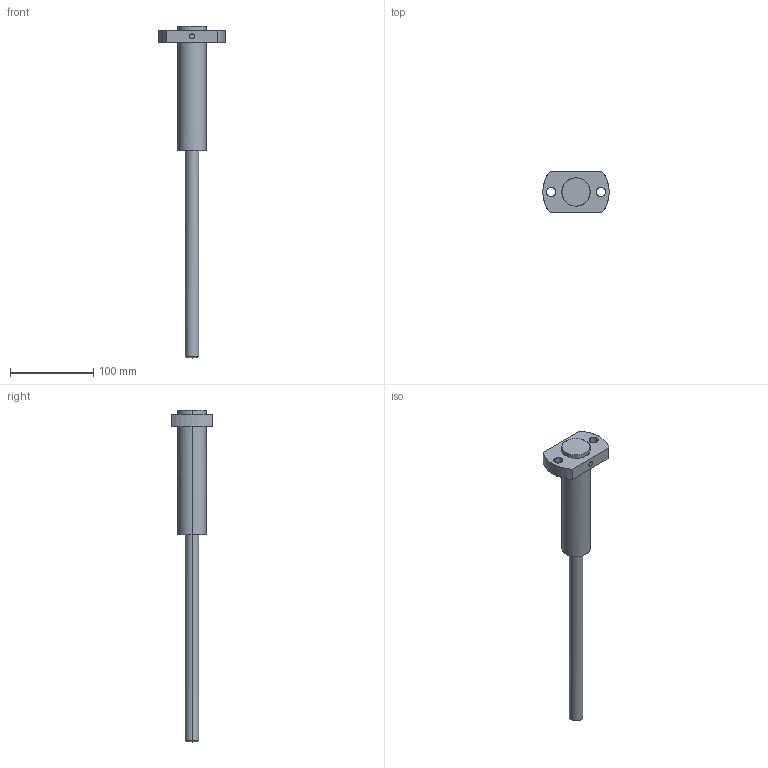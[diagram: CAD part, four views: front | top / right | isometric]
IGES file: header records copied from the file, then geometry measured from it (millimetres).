
Global section: file name: E:\UnigraphicsGraphicData\MISUMI_PRESS-PARTS\IGES\3d_papz16-250-150-130-350_01704_r00.igs; native system: NX V5.0; preprocessor: UGS NX IGES V5.0; author: MISUMI; date: 20110105.162227; units: millimetre
Bounding box: 80 x 50 x 400 mm (x, y, z)
Surface area: 42222.2 mm2 (no closed solid volume)
Topology: 0 solids, 0 shells, 23 faces, 220 edges, 218 vertices
Faces by surface type: bspline 23
